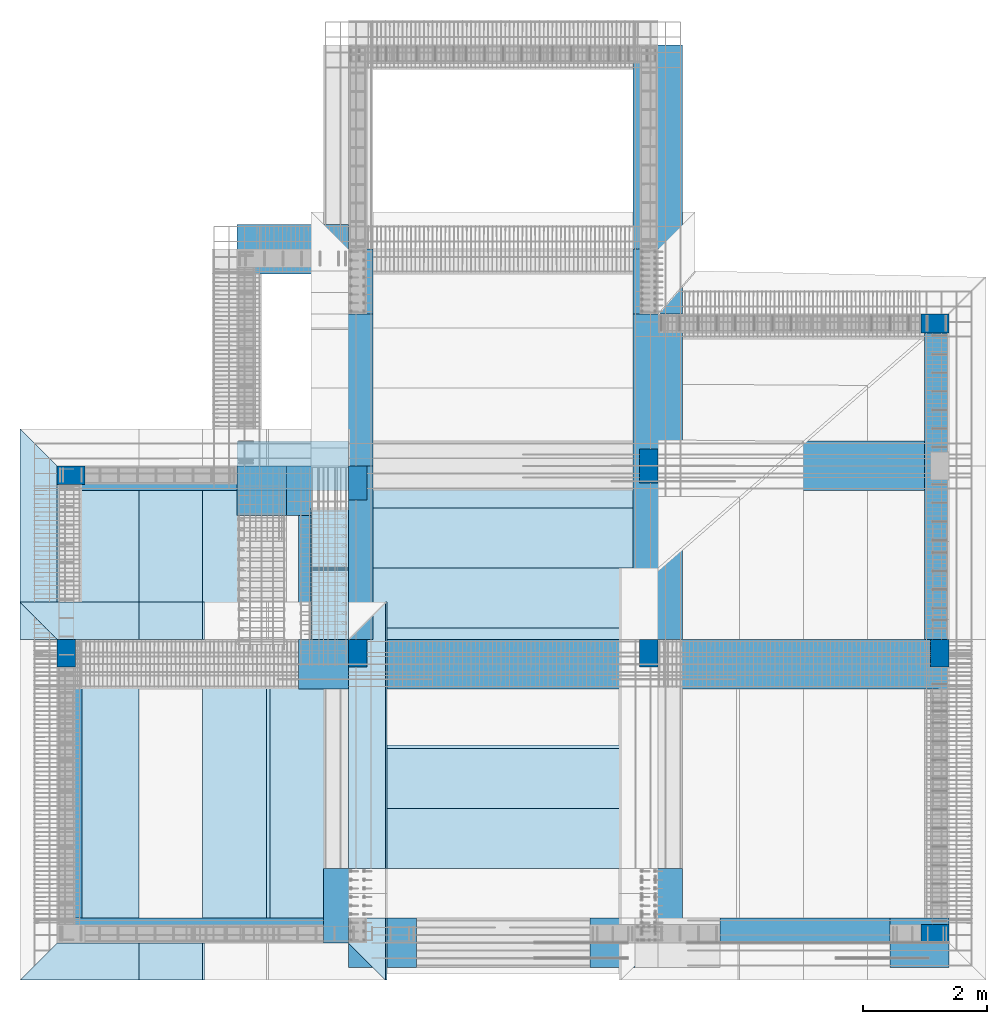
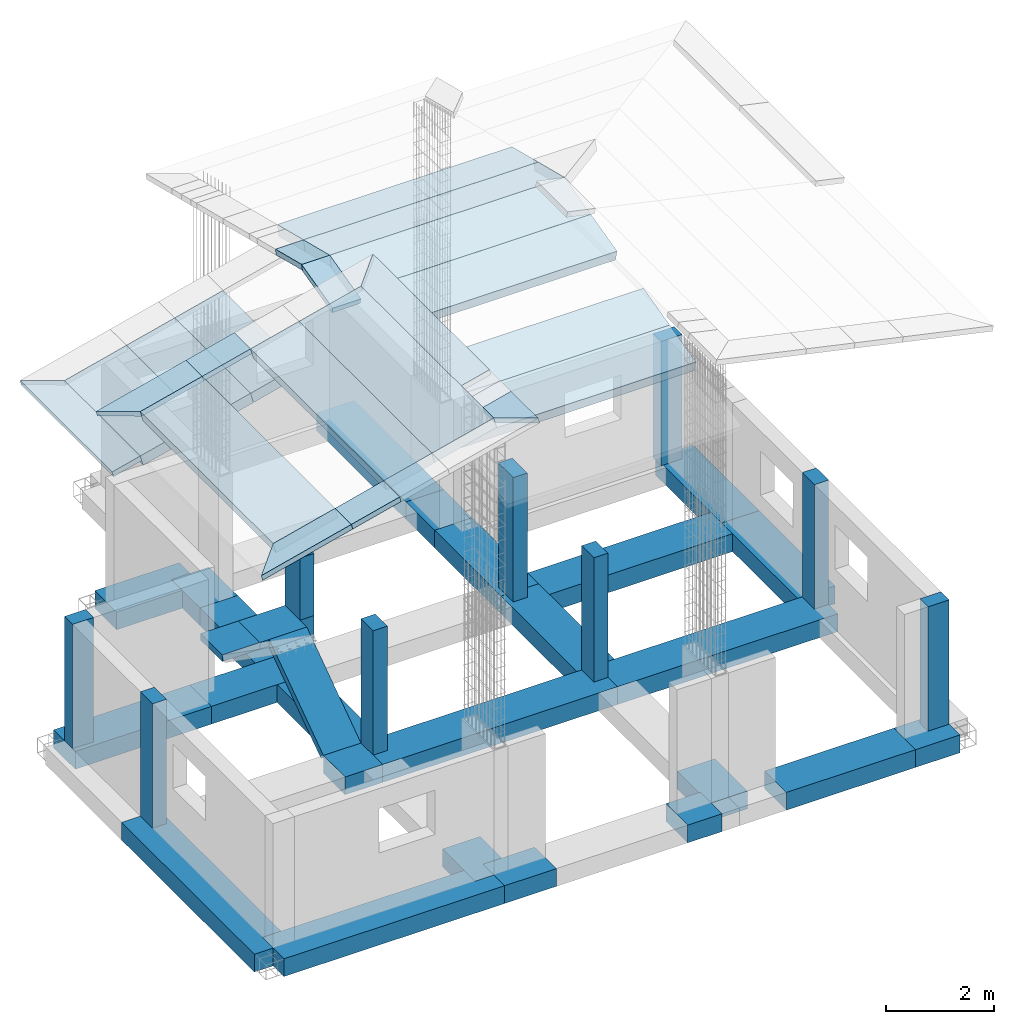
# One storey, part 1 of 15: 27 beams, 21 slabs, 10 columns.
"""IFC4 building model written with IfcOpenShell, lengths in metres."""

from ifc_helpers import new_model, si_unit, frame, frame_2d, origin_with_axes, origin_2d_with_axis, place, context, project, spatial, polyline, rectangle, outline, extrude, material, material_profile, profile_set, profile_usage, type_object, element, save


model = new_model("IFC4")

# Units and contexts
model_context = context("Model", 3, precision=1e-05, world=origin_with_axes())
ifc_project = project(units=[si_unit("LENGTHUNIT", "METRE"), si_unit("AREAUNIT", "SQUARE_METRE"), si_unit("VOLUMEUNIT", "CUBIC_METRE"), si_unit("MASSUNIT", "GRAM", prefix="KILO"), si_unit("TIMEUNIT", "SECOND"), si_unit("PLANEANGLEUNIT", "RADIAN"), si_unit("SOLIDANGLEUNIT", "STERADIAN"), si_unit("THERMODYNAMICTEMPERATUREUNIT", "DEGREE_CELSIUS")], contexts=[model_context])

# Site, building, storey
placement_1 = place(None, origin_with_axes())
site = spatial("IfcSite", under=ifc_project, at=placement_1, Name="Italia", CompositionType="ELEMENT")
building = spatial("IfcBuilding", under=site, at=placement_1, Name="Bifamiliare", CompositionType="ELEMENT")
storey = spatial("IfcBuildingStorey", under=building, at=placement_1, Name="Storey 0", CompositionType="ELEMENT", Elevation=0.0)

# Columns
ifc_material_1 = material(Name="Calcestruzzo", Category="Calcestruzzo")
ifc_material_profile = material_profile(ifc_material_1, rectangle(XDim=0.3, YDim=0.55, at=frame_2d((0.0, 0.0), x_axis=(0.0, 1.0))), Name="9 Pil 55x30")
ifc_profile_set = profile_set([ifc_material_profile])
column_type_1 = type_object("IfcColumnType", Name="9 Pil 55x30", PredefinedType="COLUMN", material=ifc_profile_set)
placement_2 = place(placement_1, origin_with_axes())
column_1_placement = place(placement_2, origin_with_axes())
element("IfcColumn", 1, at=column_1_placement, inside=storey, type_object=column_type_1, Name="8", context=model_context, shape_type="SweptSolid", body=[
    extrude(rectangle(XDim=0.3, YDim=0.55, at=frame_2d((0.0, 0.0), x_axis=(0.0, 1.0))), frame((5.95, 8.825, 0.0), z_axis=(0.0, 0.0, 1.0), x_axis=(0.0, 1.0, 0.0)), (0.0, 0.0, 1.0), 1.4),
])
ifc_profile_usage_1 = profile_usage(ifc_profile_set, cardinal=8)
column_type_2 = type_object("IfcColumnType", Name="9 Pil 55x30", PredefinedType="COLUMN", material=ifc_profile_usage_1)
column_2_placement = place(placement_2, origin_with_axes())
element("IfcColumn", 2, at=column_2_placement, inside=storey, type_object=column_type_2, Name="9", context=model_context, shape_type="SweptSolid", body=[
    extrude(rectangle(XDim=0.3, YDim=0.55, at=frame_2d((0.0, 0.0), x_axis=(0.0, 1.0))), frame((10.65, 9.1, 0.0), z_axis=(0.0, 0.0, 1.0), x_axis=(0.0, 1.0, 0.0)), (0.0, 0.0, 1.0), 2.8),
])
ifc_profile_usage_2 = profile_usage(ifc_profile_set, cardinal=9)
column_type_3 = type_object("IfcColumnType", Name="7 Pil 45x30", PredefinedType="COLUMN", material=ifc_profile_usage_2)
column_3_placement = place(placement_2, origin_with_axes())
element("IfcColumn", 3, at=column_3_placement, inside=storey, type_object=column_type_3, Name="5", context=model_context, shape_type="SweptSolid", body=[
    extrude(rectangle(XDim=0.3, YDim=0.45, at=frame_2d((0.0, 0.0), x_axis=(0.0, 1.0))), frame((10.65, 6.075, 0.0), z_axis=(0.0, 0.0, 1.0), x_axis=(0.0, 1.0, 0.0)), (0.0, 0.0, 1.0), 2.8),
])
ifc_profile_usage_3 = profile_usage(ifc_profile_set, cardinal=3)
column_type_4 = type_object("IfcColumnType", Name="7 Pil 45x30", PredefinedType="COLUMN", material=ifc_profile_usage_3)
column_4_placement = place(placement_2, origin_with_axes())
element("IfcColumn", 4, at=column_4_placement, inside=storey, type_object=column_type_4, Name="4", context=model_context, shape_type="SweptSolid", body=[
    extrude(rectangle(XDim=0.3, YDim=0.45, at=frame_2d((0.0, 0.0), x_axis=(0.0, 1.0))), frame((5.95, 6.075, 0.0), z_axis=(0.0, 0.0, 1.0), x_axis=(0.0, 1.0, 0.0)), (0.0, 0.0, 1.0), 2.8),
])
ifc_profile_usage_4 = profile_usage(ifc_profile_set, cardinal=9)
column_type_5 = type_object("IfcColumnType", Name="8 Pil 30x45", PredefinedType="COLUMN", material=ifc_profile_usage_4)
column_5_placement = place(placement_2, origin_with_axes())
element("IfcColumn", 5, at=column_5_placement, inside=storey, type_object=column_type_5, Name="11", context=model_context, shape_type="SweptSolid", body=[
    extrude(rectangle(XDim=0.3, YDim=0.45, at=origin_2d_with_axis()), frame((15.275, 11.4, 0.0), z_axis=(0.0, 0.0, 1.0), x_axis=(0.0, 1.0, 0.0)), (0.0, 0.0, 1.0), 2.8),
])
ifc_profile_usage_5 = profile_usage(ifc_profile_set, cardinal=9)
column_type_6 = type_object("IfcColumnType", Name="7 Pil 45x30", PredefinedType="COLUMN", material=ifc_profile_usage_5)
column_6_placement = place(placement_2, origin_with_axes())
element("IfcColumn", 6, at=column_6_placement, inside=storey, type_object=column_type_6, Name="6", context=model_context, shape_type="SweptSolid", body=[
    extrude(rectangle(XDim=0.3, YDim=0.45, at=frame_2d((0.0, 0.0), x_axis=(0.0, 1.0))), frame((15.35, 6.075, 0.0), z_axis=(0.0, 0.0, 1.0), x_axis=(0.0, 1.0, 0.0)), (0.0, 0.0, 1.0), 2.8),
])
ifc_profile_usage_6 = profile_usage(ifc_profile_set, cardinal=7)
column_type_7 = type_object("IfcColumnType", Name="8 Pil 30x45", PredefinedType="COLUMN", material=ifc_profile_usage_6)
column_7_placement = place(placement_2, origin_with_axes())
element("IfcColumn", 7, at=column_7_placement, inside=storey, type_object=column_type_7, Name="2", context=model_context, shape_type="SweptSolid", body=[
    extrude(rectangle(XDim=0.3, YDim=0.45, at=origin_2d_with_axis()), frame((15.275, 1.55, 0.0), z_axis=(0.0, 0.0, 1.0), x_axis=(0.0, 1.0, 0.0)), (0.0, 0.0, 1.0), 2.8),
])
ifc_profile_usage_7 = profile_usage(ifc_profile_set, cardinal=3)
column_type_8 = type_object("IfcColumnType", Name="8 Pil 30x45", PredefinedType="COLUMN", material=ifc_profile_usage_7)
column_8_placement = place(placement_2, origin_with_axes())
element("IfcColumn", 8, at=column_8_placement, inside=storey, type_object=column_type_8, Name="7", context=model_context, shape_type="SweptSolid", body=[
    extrude(rectangle(XDim=0.3, YDim=0.45, at=origin_2d_with_axis()), frame((1.325, 8.95, 0.0), z_axis=(0.0, 0.0, 1.0), x_axis=(0.0, 1.0, 0.0)), (0.0, 0.0, 1.0), 2.8),
])
ifc_profile_usage_8 = profile_usage(ifc_profile_set, cardinal=3)
column_type_9 = type_object("IfcColumnType", Name="7 Pil 45x30", PredefinedType="COLUMN", material=ifc_profile_usage_8)
column_9_placement = place(placement_2, origin_with_axes())
element("IfcColumn", 9, at=column_9_placement, inside=storey, type_object=column_type_9, Name="3", context=model_context, shape_type="SweptSolid", body=[
    extrude(rectangle(XDim=0.3, YDim=0.45, at=frame_2d((0.0, 0.0), x_axis=(0.0, 1.0))), frame((1.25, 6.075, 0.0), z_axis=(0.0, 0.0, 1.0), x_axis=(0.0, 1.0, 0.0)), (0.0, 0.0, 1.0), 2.8),
])
ifc_profile_usage_9 = profile_usage(ifc_profile_set, cardinal=3)
column_type_10 = type_object("IfcColumnType", Name="9 Pil 55x30", PredefinedType="COLUMN", material=ifc_profile_usage_9)
column_10_placement = place(placement_2, origin_with_axes())
element("IfcColumn", 10, at=column_10_placement, inside=storey, type_object=column_type_10, Name="8", context=model_context, shape_type="SweptSolid", body=[
    extrude(rectangle(XDim=0.3, YDim=0.55, at=frame_2d((0.0, 0.0), x_axis=(0.0, 1.0))), frame((5.95, 8.825, 1.4), z_axis=(0.0, 0.0, 1.0), x_axis=(0.0, 1.0, 0.0)), (0.0, 0.0, 1.0), 1.4),
])

# Beams
ifc_profile_usage_10 = profile_usage(ifc_profile_set, cardinal=1)
beam_type_1 = type_object("IfcBeamType", Name="5 Tr 80x40", PredefinedType="BEAM", material=ifc_profile_usage_10)
beam_1_placement = place(placement_2, origin_with_axes())
element("IfcBeam", 11, at=beam_1_placement, inside=storey, type_object=beam_type_1, Name="506", context=model_context, shape_type="SweptSolid", body=[
    extrude(rectangle(XDim=0.4, YDim=0.8, at=frame_2d((0.0, 0.0), x_axis=(0.0, 1.0))), frame((15.5, 5.9, -0.2), z_axis=(-1.0, 0.0, 0.0), x_axis=(0.0, -1.0, 0.0)), (0.0, 0.0, 1.0), 4.7),
])
ifc_profile_usage_11 = profile_usage(ifc_profile_set, cardinal=1)
beam_type_2 = type_object("IfcBeamType", Name="5 Tr 80x40", PredefinedType="BEAM", material=ifc_profile_usage_11)
beam_2_placement = place(placement_2, origin_with_axes())
element("IfcBeam", 12, at=beam_2_placement, inside=storey, type_object=beam_type_2, Name="506", context=model_context, shape_type="SweptSolid", body=[
    extrude(rectangle(XDim=0.4, YDim=0.8, at=frame_2d((0.0, 0.0), x_axis=(0.0, 1.0))), frame((10.8, 5.9, -0.2), z_axis=(-1.0, 0.0, 0.0), x_axis=(0.0, -1.0, 0.0)), (0.0, 0.0, 1.0), 5.0),
])
ifc_profile_usage_12 = profile_usage(ifc_profile_set, cardinal=2)
beam_type_3 = type_object("IfcBeamType", Name="5 Tr 80x40", PredefinedType="BEAM", material=ifc_profile_usage_12)
beam_3_placement = place(placement_2, origin_with_axes())
element("IfcBeam", 13, at=beam_3_placement, inside=storey, type_object=beam_type_3, Name="510", context=model_context, shape_type="SweptSolid", body=[
    extrude(rectangle(XDim=0.4, YDim=0.8, at=frame_2d((0.0, 0.0), x_axis=(0.0, 1.0))), frame((5.8, 9.1, -0.2), z_axis=(-1.0, 0.0, 0.0), x_axis=(0.0, -1.0, 0.0)), (0.0, 0.0, 1.0), 1.8),
])
ifc_profile_usage_13 = profile_usage(ifc_profile_set, cardinal=2)
beam_type_4 = type_object("IfcBeamType", Name="5 Tr 80x40", PredefinedType="BEAM", material=ifc_profile_usage_13)
beam_4_placement = place(placement_2, origin_with_axes())
element("IfcBeam", 14, at=beam_4_placement, inside=storey, type_object=beam_type_4, Name="523", context=model_context, shape_type="SweptSolid", body=[
    extrude(rectangle(XDim=0.4, YDim=0.8, at=frame_2d((0.0, 0.0), x_axis=(0.0, 1.0))), frame((10.8, 6.3, -0.2), z_axis=(0.0, 1.0, 0.0), x_axis=(-1.0, 0.0, 0.0)), (0.0, 0.0, 1.0), 2.8),
])
ifc_profile_usage_14 = profile_usage(ifc_profile_set, cardinal=2)
beam_type_5 = type_object("IfcBeamType", Name="5 Tr 80x40", PredefinedType="BEAM", material=ifc_profile_usage_14)
beam_5_placement = place(placement_2, origin_with_axes())
element("IfcBeam", 15, at=beam_5_placement, inside=storey, type_object=beam_type_5, Name="523", context=model_context, shape_type="SweptSolid", body=[
    extrude(rectangle(XDim=0.4, YDim=0.8, at=frame_2d((0.0, 0.0), x_axis=(0.0, 1.0))), frame((10.8, 9.1, -0.2), z_axis=(0.0, 1.0, 0.0), x_axis=(-1.0, 0.0, 0.0)), (0.0, 0.0, 1.0), 2.45),
])
ifc_profile_usage_15 = profile_usage(ifc_profile_set, cardinal=2)
beam_type_6 = type_object("IfcBeamType", Name="5 Tr 80x40", PredefinedType="BEAM", material=ifc_profile_usage_15)
beam_6_placement = place(placement_2, origin_with_axes())
element("IfcBeam", 16, at=beam_6_placement, inside=storey, type_object=beam_type_6, Name="522", context=model_context, shape_type="SweptSolid", body=[
    extrude(rectangle(XDim=0.4, YDim=0.8, at=frame_2d((0.0, 0.0), x_axis=(0.0, 1.0))), frame((5.8, 9.1, -0.2), z_axis=(0.0, -1.0, 0.0), x_axis=(1.0, 0.0, 0.0)), (0.0, 0.0, 1.0), 2.8),
])
ifc_profile_usage_16 = profile_usage(ifc_profile_set, cardinal=2)
beam_type_7 = type_object("IfcBeamType", Name="5 Tr 80x40", PredefinedType="BEAM", material=ifc_profile_usage_16)
beam_7_placement = place(placement_2, origin_with_axes())
element("IfcBeam", 17, at=beam_7_placement, inside=storey, type_object=beam_type_7, Name="522", context=model_context, shape_type="SweptSolid", body=[
    extrude(rectangle(XDim=0.4, YDim=0.8, at=frame_2d((0.0, 0.0), x_axis=(0.0, 1.0))), frame((5.8, 11.55, -0.2), z_axis=(0.0, -1.0, 0.0), x_axis=(1.0, 0.0, 0.0)), (0.0, 0.0, 1.0), 2.45),
])
ifc_profile_usage_17 = profile_usage(ifc_profile_set, cardinal=2)
beam_type_8 = type_object("IfcBeamType", Name="5 Tr 80x40", PredefinedType="BEAM", material=ifc_profile_usage_17)
beam_8_placement = place(placement_2, origin_with_axes())
element("IfcBeam", 18, at=beam_8_placement, inside=storey, type_object=beam_type_8, Name="501", context=model_context, shape_type="SweptSolid", body=[
    extrude(rectangle(XDim=0.4, YDim=0.8, at=frame_2d((0.0, 0.0), x_axis=(0.0, 1.0))), frame((11.8, 1.4, -0.2), z_axis=(1.0, 0.0, 0.0), x_axis=(0.0, 1.0, 0.0)), (0.0, 0.0, 1.0), 2.75),
])
ifc_profile_usage_18 = profile_usage(ifc_profile_set, cardinal=2)
beam_type_9 = type_object("IfcBeamType", Name="5 Tr 80x40", PredefinedType="BEAM", material=ifc_profile_usage_18)
beam_9_placement = place(placement_2, origin_with_axes())
element("IfcBeam", 19, at=beam_9_placement, inside=storey, type_object=beam_type_9, Name="510", context=model_context, shape_type="SweptSolid", body=[
    extrude(rectangle(XDim=0.4, YDim=0.8, at=frame_2d((0.0, 0.0), x_axis=(0.0, 1.0))), frame((15.5, 9.1, -0.2), z_axis=(-1.0, 0.0, 0.0), x_axis=(0.0, -1.0, 0.0)), (0.0, 0.0, 1.0), 4.7),
])
ifc_profile_usage_19 = profile_usage(ifc_profile_set, cardinal=2)
beam_type_10 = type_object("IfcBeamType", Name="5 Tr 80x40", PredefinedType="BEAM", material=ifc_profile_usage_19)
beam_10_placement = place(placement_2, origin_with_axes())
element("IfcBeam", 20, at=beam_10_placement, inside=storey, type_object=beam_type_10, Name="522", context=model_context, shape_type="SweptSolid", body=[
    extrude(rectangle(XDim=0.4, YDim=0.8, at=frame_2d((0.0, 0.0), x_axis=(0.0, 1.0))), frame((5.8, 12.6, -0.2), z_axis=(0.0, -1.0, 0.0), x_axis=(1.0, 0.0, 0.0)), (0.0, 0.0, 1.0), 1.05),
])
ifc_profile_usage_20 = profile_usage(ifc_profile_set, cardinal=2)
beam_type_11 = type_object("IfcBeamType", Name="5 Tr 80x40", PredefinedType="BEAM", material=ifc_profile_usage_20)
beam_11_placement = place(placement_2, origin_with_axes())
element("IfcBeam", 21, at=beam_11_placement, inside=storey, type_object=beam_type_11, Name="522", context=model_context, shape_type="SweptSolid", body=[
    extrude(rectangle(XDim=0.4, YDim=0.8, at=frame_2d((0.0, 0.0), x_axis=(0.0, 1.0))), frame((5.8, 2.6, -0.2), z_axis=(0.0, -1.0, 0.0), x_axis=(1.0, 0.0, 0.0)), (0.0, 0.0, 1.0), 1.2),
])
ifc_profile_usage_21 = profile_usage(ifc_profile_set, cardinal=2)
beam_type_12 = type_object("IfcBeamType", Name="5 Tr 80x40", PredefinedType="BEAM", material=ifc_profile_usage_21)
beam_12_placement = place(placement_2, origin_with_axes())
element("IfcBeam", 22, at=beam_12_placement, inside=storey, type_object=beam_type_12, Name="527", context=model_context, shape_type="SweptSolid", body=[
    extrude(rectangle(XDim=0.4, YDim=0.8, at=frame_2d((0.0, 0.0), x_axis=(0.0, 1.0))), frame((15.5, 9.1, -0.2), z_axis=(0.0, 1.0, 0.0), x_axis=(-1.0, 0.0, 0.0)), (0.0, 0.0, 1.0), 2.45),
])
ifc_profile_usage_22 = profile_usage(ifc_profile_set, cardinal=2)
beam_type_13 = type_object("IfcBeamType", Name="5 Tr 80x40", PredefinedType="BEAM", material=ifc_profile_usage_22)
beam_13_placement = place(placement_2, origin_with_axes())
element("IfcBeam", 23, at=beam_13_placement, inside=storey, type_object=beam_type_13, Name="527", context=model_context, shape_type="SweptSolid", body=[
    extrude(rectangle(XDim=0.4, YDim=0.8, at=frame_2d((0.0, 0.0), x_axis=(0.0, 1.0))), frame((15.5, 6.3, -0.2), z_axis=(0.0, 1.0, 0.0), x_axis=(-1.0, 0.0, 0.0)), (0.0, 0.0, 1.0), 2.8),
])
ifc_profile_usage_23 = profile_usage(ifc_profile_set, cardinal=2)
beam_type_14 = type_object("IfcBeamType", Name="5 Tr 80x40", PredefinedType="BEAM", material=ifc_profile_usage_23)
beam_14_placement = place(placement_2, origin_with_axes())
element("IfcBeam", 24, at=beam_14_placement, inside=storey, type_object=beam_type_14, Name="501", context=model_context, shape_type="SweptSolid", body=[
    extrude(rectangle(XDim=0.4, YDim=0.8, at=frame_2d((0.0, 0.0), x_axis=(0.0, 1.0))), frame((14.55, 1.4, -0.2), z_axis=(1.0, 0.0, 0.0), x_axis=(0.0, 1.0, 0.0)), (0.0, 0.0, 1.0), 0.95),
])
ifc_profile_usage_24 = profile_usage(ifc_profile_set, cardinal=2)
beam_type_15 = type_object("IfcBeamType", Name="5 Tr 80x40", PredefinedType="BEAM", material=ifc_profile_usage_24)
beam_15_placement = place(placement_2, origin_with_axes())
element("IfcBeam", 25, at=beam_15_placement, inside=storey, type_object=beam_type_15, Name="523", context=model_context, shape_type="SweptSolid", body=[
    extrude(rectangle(XDim=0.4, YDim=0.8, at=frame_2d((0.0, 0.0), x_axis=(0.0, 1.0))), frame((10.8, 12.6, -0.2), z_axis=(0.0, 1.0, 0.0), x_axis=(-1.0, 0.0, 0.0)), (0.0, 0.0, 1.0), 3.3),
])
ifc_profile_usage_25 = profile_usage(ifc_profile_set, cardinal=2)
beam_type_16 = type_object("IfcBeamType", Name="5 Tr 80x40", PredefinedType="BEAM", material=ifc_profile_usage_25)
beam_16_placement = place(placement_2, origin_with_axes())
element("IfcBeam", 26, at=beam_16_placement, inside=storey, type_object=beam_type_16, Name="523", context=model_context, shape_type="SweptSolid", body=[
    extrude(rectangle(XDim=0.4, YDim=0.8, at=frame_2d((0.0, 0.0), x_axis=(0.0, 1.0))), frame((10.8, 11.55, -0.2), z_axis=(0.0, 1.0, 0.0), x_axis=(-1.0, 0.0, 0.0)), (0.0, 0.0, 1.0), 1.05),
])
ifc_profile_usage_26 = profile_usage(ifc_profile_set, cardinal=2)
beam_type_17 = type_object("IfcBeamType", Name="5 Tr 80x40", PredefinedType="BEAM", material=ifc_profile_usage_26)
beam_17_placement = place(placement_2, origin_with_axes())
element("IfcBeam", 27, at=beam_17_placement, inside=storey, type_object=beam_type_17, Name="523", context=model_context, shape_type="SweptSolid", body=[
    extrude(rectangle(XDim=0.4, YDim=0.8, at=frame_2d((0.0, 0.0), x_axis=(0.0, 1.0))), frame((10.8, 1.4, -0.2), z_axis=(0.0, 1.0, 0.0), x_axis=(-1.0, 0.0, 0.0)), (0.0, 0.0, 1.0), 1.2),
])
ifc_profile_usage_27 = profile_usage(ifc_profile_set, cardinal=2)
beam_type_18 = type_object("IfcBeamType", Name="5 Tr 80x40", PredefinedType="BEAM", material=ifc_profile_usage_27)
beam_18_placement = place(placement_2, origin_with_axes())
element("IfcBeam", 28, at=beam_18_placement, inside=storey, type_object=beam_type_18, Name="501", context=model_context, shape_type="SweptSolid", body=[
    extrude(rectangle(XDim=0.4, YDim=0.8, at=frame_2d((0.0, 0.0), x_axis=(0.0, 1.0))), frame((9.7, 1.4, -0.2), z_axis=(1.0, 0.0, 0.0), x_axis=(0.0, 1.0, 0.0)), (0.0, 0.0, 1.0), 0.733334),
])
ifc_profile_usage_28 = profile_usage(ifc_profile_set, cardinal=2)
beam_type_19 = type_object("IfcBeamType", Name="5 Tr 80x40", PredefinedType="BEAM", material=ifc_profile_usage_28)
beam_19_placement = place(placement_2, origin_with_axes())
element("IfcBeam", 29, at=beam_19_placement, inside=storey, type_object=beam_type_19, Name="515", context=model_context, shape_type="SweptSolid", body=[
    extrude(rectangle(XDim=0.4, YDim=0.8, at=frame_2d((0.0, 0.0), x_axis=(0.0, 1.0))), frame((5.8, 12.6, -0.2), z_axis=(-1.0, 0.0, 0.0), x_axis=(0.0, -1.0, 0.0)), (0.0, 0.0, 1.0), 1.8),
])
ifc_profile_usage_29 = profile_usage(ifc_profile_set, cardinal=2)
beam_type_20 = type_object("IfcBeamType", Name="5 Tr 80x40", PredefinedType="BEAM", material=ifc_profile_usage_29)
beam_20_placement = place(placement_2, origin_with_axes())
element("IfcBeam", 30, at=beam_20_placement, inside=storey, type_object=beam_type_20, Name="501", context=model_context, shape_type="SweptSolid", body=[
    extrude(rectangle(XDim=0.4, YDim=0.8, at=frame_2d((0.0, 0.0), x_axis=(0.0, 1.0))), frame((5.8, 1.4, -0.2), z_axis=(1.0, 0.0, 0.0), x_axis=(0.0, 1.0, 0.0)), (0.0, 0.0, 1.0), 1.1),
])
ifc_profile_usage_30 = profile_usage(ifc_profile_set, cardinal=2)
beam_type_21 = type_object("IfcBeamType", Name="5 Tr 80x40", PredefinedType="BEAM", material=ifc_profile_usage_30)
beam_21_placement = place(placement_2, origin_with_axes())
element("IfcBeam", 31, at=beam_21_placement, inside=storey, type_object=beam_type_21, Name="510", context=model_context, shape_type="SweptSolid", body=[
    extrude(rectangle(XDim=0.4, YDim=0.8, at=frame_2d((0.0, 0.0), x_axis=(0.0, 1.0))), frame((4.0, 9.1, -0.2), z_axis=(-1.0, 0.0, 0.0), x_axis=(0.0, -1.0, 0.0)), (0.0, 0.0, 1.0), 2.9),
])
ifc_profile_usage_31 = profile_usage(ifc_profile_set, cardinal=2)
beam_type_22 = type_object("IfcBeamType", Name="5 Tr 80x40", PredefinedType="BEAM", material=ifc_profile_usage_31)
beam_22_placement = place(placement_2, origin_with_axes())
element("IfcBeam", 32, at=beam_22_placement, inside=storey, type_object=beam_type_22, Name="517", context=model_context, shape_type="SweptSolid", body=[
    extrude(rectangle(XDim=0.4, YDim=0.8, at=frame_2d((0.0, 0.0), x_axis=(0.0, 1.0))), frame((1.1, 6.3, -0.2), z_axis=(0.0, -1.0, 0.0), x_axis=(1.0, 0.0, 0.0)), (0.0, 0.0, 1.0), 4.9),
])
ifc_profile_usage_32 = profile_usage(ifc_profile_set, cardinal=2)
beam_type_23 = type_object("IfcBeamType", Name="5 Tr 80x40", PredefinedType="BEAM", material=ifc_profile_usage_32)
beam_23_placement = place(placement_2, origin_with_axes())
element("IfcBeam", 33, at=beam_23_placement, inside=storey, type_object=beam_type_23, Name="501", context=model_context, shape_type="SweptSolid", body=[
    extrude(rectangle(XDim=0.4, YDim=0.8, at=frame_2d((0.0, 0.0), x_axis=(0.0, 1.0))), frame((1.1, 1.4, -0.2), z_axis=(1.0, 0.0, 0.0), x_axis=(0.0, 1.0, 0.0)), (0.0, 0.0, 1.0), 4.7),
])
ifc_profile_usage_33 = profile_usage(ifc_profile_set, cardinal=1)
beam_type_24 = type_object("IfcBeamType", Name="5 Tr 80x40", PredefinedType="BEAM", material=ifc_profile_usage_33)
beam_24_placement = place(placement_2, origin_with_axes())
element("IfcBeam", 34, at=beam_24_placement, inside=storey, type_object=beam_type_24, Name="506", context=model_context, shape_type="SweptSolid", body=[
    extrude(rectangle(XDim=0.4, YDim=0.8, at=frame_2d((0.0, 0.0), x_axis=(0.0, 1.0))), frame((5.8, 5.9, -0.2), z_axis=(-1.0, 0.0, 0.0), x_axis=(0.0, -1.0, 0.0)), (0.0, 0.0, 1.0), 0.8),
])
ifc_profile_usage_34 = profile_usage(ifc_profile_set, cardinal=1)
beam_type_25 = type_object("IfcBeamType", Name="10 Scala", PredefinedType="BEAM", material=ifc_profile_usage_34)
beam_25_placement = place(placement_2, origin_with_axes())
element("IfcBeam", 35, at=beam_25_placement, inside=storey, type_object=beam_type_25, Name="601", context=model_context, shape_type="SweptSolid", body=[
    extrude(rectangle(XDim=0.15, YDim=0.8, at=frame_2d((0.0, 0.0), x_axis=(0.0, 1.0))), frame((5.4, 6.34301, -0.0614424), z_axis=(0.0, 0.819231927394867, 0.573462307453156), x_axis=(-1.0, 0.0, 0.0)), (0.0, 0.0, 1.0), 2.44131),
])
ifc_profile_usage_35 = profile_usage(ifc_profile_set, cardinal=1)
beam_type_26 = type_object("IfcBeamType", Name="11 Pianerottolo", PredefinedType="BEAM", material=ifc_profile_usage_35)
beam_26_placement = place(placement_2, origin_with_axes())
element("IfcBeam", 36, at=beam_26_placement, inside=storey, type_object=beam_type_26, Name="601", context=model_context, shape_type="SweptSolid", body=[
    extrude(rectangle(XDim=0.15, YDim=1.0, at=frame_2d((0.0, 0.0), x_axis=(0.0, 1.0))), frame((5.3, 8.3, 1.325), z_axis=(0.0, 1.0, 0.0), x_axis=(-1.0, 0.0, 0.0)), (0.0, 0.0, 1.0), 0.8),
])
ifc_profile_usage_36 = profile_usage(ifc_profile_set, cardinal=1)
beam_type_27 = type_object("IfcBeamType", Name="10 Scala", PredefinedType="BEAM", material=ifc_profile_usage_36)
beam_27_placement = place(placement_2, origin_with_axes())
element("IfcBeam", 37, at=beam_27_placement, inside=storey, type_object=beam_type_27, Name="602", context=model_context, shape_type="SweptSolid", body=[
    extrude(rectangle(XDim=0.15, YDim=0.8, at=frame_2d((0.0, 0.0), x_axis=(0.0, 1.0))), frame((4.4, 9.1, 1.325), z_axis=(0.0, -1.0, 0.0), x_axis=(1.0, 0.0, 0.0)), (0.0, 0.0, 1.0), 0.8),
])

# Slabs
ifc_material_2 = material(Name="Concrete", Category="Concrete")
slab_type_1 = type_object("IfcSlabType", Name="2 Solaio copertura", PredefinedType="FLOOR", material=ifc_material_2)
slab_1_placement = place(placement_2, origin_with_axes())
element("IfcSlab", 38, at=slab_1_placement, inside=storey, type_object=slab_type_1, Name="301", context=model_context, shape_type="SweptSolid", body=[
    extrude(outline(polyline([(0.0, 0.0), (-5.0, 0.0), (-5.0, 0.999968), (0.0, 0.999968), (0.0, 0.0)])), frame((10.8, 8.42, 10.047), z_axis=(0.0, -0.242980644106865, -0.970031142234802), x_axis=(1.0, 0.0, 0.0)), (0.0, 0.0, 1.0), 0.24),
])
ifc_material_3 = material(Name="Concrete", Category="Concrete")
slab_type_2 = type_object("IfcSlabType", Name="2 Solaio copertura", PredefinedType="FLOOR", material=ifc_material_3)
slab_2_placement = place(placement_2, origin_with_axes())
element("IfcSlab", 39, at=slab_2_placement, inside=storey, type_object=slab_type_2, Name="302", context=model_context, shape_type="SweptSolid", body=[
    extrude(outline(polyline([(0.0, 0.0), (-5.0, 0.0), (-5.0, 0.298959), (-5.0, 0.999968), (0.0, 0.999968), (0.0, 0.804098), (0.0, 0.298959), (0.0, 0.0)])), frame((10.8, 9.39, 9.80406), z_axis=(0.0, -0.242980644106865, -0.970031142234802), x_axis=(1.0, 0.0, 0.0)), (0.0, 0.0, 1.0), 0.24),
])
ifc_material_4 = material(Name="Concrete", Category="Concrete")
slab_type_3 = type_object("IfcSlabType", Name="3 Aggetto di gronda", PredefinedType="FLOOR", material=ifc_material_4)
slab_3_placement = place(placement_2, origin_with_axes())
element("IfcSlab", 40, at=slab_3_placement, inside=storey, type_object=slab_type_3, Name="329", context=model_context, shape_type="SweptSolid", body=[
    extrude(outline(polyline([(0.0, 0.0), (0.0, 0.999968), (-0.6, 0.999968), (-0.6, 0.0), (0.0, 0.0)])), frame((5.8, 8.42, 10.047), z_axis=(0.0, -0.242980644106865, -0.970031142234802), x_axis=(1.0, 0.0, 0.0)), (0.0, 0.0, 1.0), 0.12),
])
ifc_material_5 = material(Name="Concrete", Category="Concrete")
slab_type_4 = type_object("IfcSlabType", Name="3 Aggetto di gronda", PredefinedType="FLOOR", material=ifc_material_5)
slab_4_placement = place(placement_2, origin_with_axes())
element("IfcSlab", 41, at=slab_4_placement, inside=storey, type_object=slab_type_4, Name="334", context=model_context, shape_type="SweptSolid", body=[
    extrude(outline(polyline([(0.0, 0.0), (-2.8, 0.0), (-2.8, -0.618621), (0.6, -0.618621), (0.0, 0.0)])), frame((1.1, 9.1, 8.11), z_axis=(0.243505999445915, 0.0, -0.969899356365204), x_axis=(0.0, 1.0, 0.0)), (0.0, 0.0, 1.0), 0.12),
])
ifc_material_6 = material(Name="Concrete", Category="Concrete")
slab_type_5 = type_object("IfcSlabType", Name="3 Aggetto di gronda", PredefinedType="FLOOR", material=ifc_material_6)
slab_5_placement = place(placement_2, origin_with_axes())
element("IfcSlab", 42, at=slab_5_placement, inside=storey, type_object=slab_type_5, Name="347", context=model_context, shape_type="SweptSolid", body=[
    extrude(outline(polyline([(0.0, 0.0), (-0.00662661, -0.99992), (-0.00785637, -1.18547), (0.59213, -1.18995), (0.599986, -0.00397491), (0.0, 0.0)])), frame((5.8, 7.45, 10.29), z_axis=(0.001664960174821, 0.243700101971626, -0.969849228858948), x_axis=(-0.999976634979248, 0.006831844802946, 0.0)), (0.0, 0.0, 1.0), 0.12),
])
ifc_material_7 = material(Name="Concrete", Category="Concrete")
slab_type_6 = type_object("IfcSlabType", Name="3 Aggetto di gronda", PredefinedType="FLOOR", material=ifc_material_7)
slab_6_placement = place(placement_2, origin_with_axes())
element("IfcSlab", 43, at=slab_6_placement, inside=storey, type_object=slab_type_6, Name="350", context=model_context, shape_type="SweptSolid", body=[
    extrude(outline(polyline([(0.0, 0.0), (0.0, -1.06197), (0.6, -1.06197), (0.6, 0.0), (0.0, 0.0)])), frame((3.45, 6.3, 9.7), z_axis=(0.243505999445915, 0.0, -0.969899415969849), x_axis=(0.0, 1.0, 0.0)), (0.0, 0.0, 1.0), 0.12),
])
ifc_material_8 = material(Name="Concrete", Category="Concrete")
slab_type_7 = type_object("IfcSlabType", Name="3 Aggetto di gronda", PredefinedType="FLOOR", material=ifc_material_8)
slab_7_placement = place(placement_2, origin_with_axes())
element("IfcSlab", 44, at=slab_7_placement, inside=storey, type_object=slab_type_7, Name="351", context=model_context, shape_type="SweptSolid", body=[
    extrude(outline(polyline([(0.0, 0.0), (0.0, -1.36097), (0.6, -1.97959), (0.6, 0.0), (0.0, 0.0)])), frame((2.42, 6.3, 9.4414), z_axis=(0.243505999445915, 0.0, -0.969899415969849), x_axis=(0.0, 1.0, 0.0)), (0.0, 0.0, 1.0), 0.12),
])
ifc_material_9 = material(Name="Concrete", Category="Concrete")
slab_type_8 = type_object("IfcSlabType", Name="3 Aggetto di gronda", PredefinedType="FLOOR", material=ifc_material_9)
slab_8_placement = place(placement_2, origin_with_axes())
element("IfcSlab", 45, at=slab_8_placement, inside=storey, type_object=slab_type_8, Name="353", context=model_context, shape_type="SweptSolid", body=[
    extrude(outline(polyline([(0.0, 0.0), (0.0, 1.36097), (-0.6, 1.36097), (-0.6, -0.618621), (0.0, 0.0)])), frame((1.1, 1.4, 9.11), z_axis=(0.243505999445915, 0.0, -0.969899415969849), x_axis=(0.0, 1.0, 0.0)), (0.0, 0.0, 1.0), 0.12),
])
ifc_material_10 = material(Name="Concrete", Category="Concrete")
slab_type_9 = type_object("IfcSlabType", Name="3 Aggetto di gronda", PredefinedType="FLOOR", material=ifc_material_10)
slab_9_placement = place(placement_2, origin_with_axes())
element("IfcSlab", 46, at=slab_9_placement, inside=storey, type_object=slab_type_9, Name="354", context=model_context, shape_type="SweptSolid", body=[
    extrude(outline(polyline([(0.0, 0.0), (0.0, 1.06197), (-0.6, 1.06197), (-0.6, 0.0), (0.0, 0.0)])), frame((2.42, 1.4, 9.4414), z_axis=(0.243505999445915, 0.0, -0.969899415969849), x_axis=(0.0, 1.0, 0.0)), (0.0, 0.0, 1.0), 0.12),
])
ifc_material_11 = material(Name="Concrete", Category="Concrete")
slab_type_10 = type_object("IfcSlabType", Name="3 Aggetto di gronda", PredefinedType="FLOOR", material=ifc_material_11)
slab_10_placement = place(placement_2, origin_with_axes())
element("IfcSlab", 47, at=slab_10_placement, inside=storey, type_object=slab_type_10, Name="357", context=model_context, shape_type="SweptSolid", body=[
    extrude(outline(polyline([(0.0, 0.0), (0.4, 0.0), (0.4, 0.618621), (-0.6, 0.618621), (0.0, 0.0)])), frame((5.8, 1.4, 10.29), z_axis=(0.243507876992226, 0.0, -0.96989893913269), x_axis=(0.0, 1.0, 0.0)), (0.0, 0.0, 1.0), 0.12),
])
ifc_material_12 = material(Name="Concrete", Category="Concrete")
slab_type_11 = type_object("IfcSlabType", Name="3 Aggetto di gronda", PredefinedType="FLOOR", material=ifc_material_12)
slab_11_placement = place(placement_2, origin_with_axes())
element("IfcSlab", 48, at=slab_11_placement, inside=storey, type_object=slab_type_11, Name="360", context=model_context, shape_type="SweptSolid", body=[
    extrude(outline(polyline([(0.0, 0.0), (3.7, 0.0), (4.3, 0.618621), (0.0, 0.618621), (0.0, 0.0)])), frame((5.8, 2.6, 10.29), z_axis=(0.243507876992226, 0.0, -0.96989893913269), x_axis=(0.0, 1.0, 0.0)), (0.0, 0.0, 1.0), 0.12),
])
ifc_material_13 = material(Name="Concrete", Category="Concrete")
slab_type_12 = type_object("IfcSlabType", Name="2 Solaio copertura", PredefinedType="FLOOR", material=ifc_material_13)
slab_12_placement = place(placement_2, origin_with_axes())
element("IfcSlab", 49, at=slab_12_placement, inside=storey, type_object=slab_type_12, Name="361", context=model_context, shape_type="SweptSolid", body=[
    extrude(outline(polyline([(0.0, 0.0), (-5.0, 0.0), (-5.0, 0.999944), (0.0, 0.999944), (0.0, 0.0)])), frame((5.8, 2.6, 9.07565), z_axis=(0.0, 0.24288435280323, -0.970055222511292), x_axis=(-1.0, 0.0, 0.0)), (0.0, 0.0, 1.0), 0.24),
])
ifc_material_14 = material(Name="Concrete", Category="Concrete")
slab_type_13 = type_object("IfcSlabType", Name="2 Solaio copertura", PredefinedType="FLOOR", material=ifc_material_14)
slab_13_placement = place(placement_2, origin_with_axes())
element("IfcSlab", 50, at=slab_13_placement, inside=storey, type_object=slab_type_13, Name="362", context=model_context, shape_type="SweptSolid", body=[
    extrude(outline(polyline([(0.0, 0.0), (-5.0, 0.0), (-5.0, 0.999943), (0.0, 0.999943), (0.0, 0.0)])), frame((5.8, 3.57, 9.31852), z_axis=(0.0, 0.24288435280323, -0.970055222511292), x_axis=(-1.0, 0.0, 0.0)), (0.0, 0.0, 1.0), 0.24),
])
ifc_material_15 = material(Name="Concrete", Category="Concrete")
slab_type_14 = type_object("IfcSlabType", Name="2 Solaio copertura", PredefinedType="FLOOR", material=ifc_material_15)
slab_14_placement = place(placement_2, origin_with_axes())
element("IfcSlab", 51, at=slab_14_placement, inside=storey, type_object=slab_type_14, Name="364", context=model_context, shape_type="SweptSolid", body=[
    extrude(outline(polyline([(0.0, 0.0), (-5.0, -0.00400734), (-5.00065, 0.809878), (-5.0008, 0.995935), (-0.000801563, 0.999943), (-0.00065279, 0.814386), (0.0, 0.0)])), frame((5.8, 5.51, 9.80426), z_axis=(-0.000200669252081, 0.242885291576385, -0.970054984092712), x_axis=(-0.999999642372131, -0.000826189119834, 0.0)), (0.0, 0.0, 1.0), 0.24),
])
ifc_material_16 = material(Name="Concrete", Category="Concrete")
slab_type_15 = type_object("IfcSlabType", Name="2 Solaio copertura", PredefinedType="FLOOR", material=ifc_material_16)
slab_15_placement = place(placement_2, origin_with_axes())
element("IfcSlab", 52, at=slab_15_placement, inside=storey, type_object=slab_type_15, Name="365", context=model_context, shape_type="SweptSolid", body=[
    extrude(outline(polyline([(0.0, 0.0), (-5.0, 0.0), (-5.0, 0.999943), (0.0, 0.999943), (0.0, 0.0)])), frame((5.8, 6.48, 10.0471), z_axis=(0.0, 0.242883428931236, -0.970055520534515), x_axis=(-1.0, 0.0, 0.0)), (0.0, 0.0, 1.0), 0.24),
])
ifc_material_17 = material(Name="Concrete", Category="Concrete")
slab_type_16 = type_object("IfcSlabType", Name="2 Solaio copertura", PredefinedType="FLOOR", material=ifc_material_17)
slab_16_placement = place(placement_2, origin_with_axes())
element("IfcSlab", 53, at=slab_16_placement, inside=storey, type_object=slab_type_16, Name="366", context=model_context, shape_type="SweptSolid", body=[
    extrude(outline(polyline([(0.0, 0.0), (-4.9, 0.0), (-4.9, 1.36097), (0.0, 1.36097), (0.0, 0.0)])), frame((1.1, 6.3, 9.11), z_axis=(0.24350693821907, 0.0, -0.96989917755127), x_axis=(0.0, 1.0, 0.0)), (0.0, 0.0, 1.0), 0.24),
])
ifc_material_18 = material(Name="Concrete", Category="Concrete")
slab_type_17 = type_object("IfcSlabType", Name="2 Solaio copertura", PredefinedType="FLOOR", material=ifc_material_18)
slab_17_placement = place(placement_2, origin_with_axes())
element("IfcSlab", 54, at=slab_17_placement, inside=storey, type_object=slab_type_17, Name="368", context=model_context, shape_type="SweptSolid", body=[
    extrude(outline(polyline([(0.0, 0.0), (-4.9, 0.0), (-4.9, -1.06197), (0.0, -1.06197), (0.0, 0.0)])), frame((4.48, 6.3, 9.9586), z_axis=(0.24350693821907, 0.0, -0.96989917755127), x_axis=(0.0, 1.0, 0.0)), (0.0, 0.0, 1.0), 0.24),
])
ifc_material_19 = material(Name="Concrete", Category="Concrete")
slab_type_18 = type_object("IfcSlabType", Name="2 Solaio copertura", PredefinedType="FLOOR", material=ifc_material_19)
slab_18_placement = place(placement_2, origin_with_axes())
element("IfcSlab", 55, at=slab_18_placement, inside=storey, type_object=slab_type_18, Name="369", context=model_context, shape_type="SweptSolid", body=[
    extrude(outline(polyline([(0.0, 0.0), (-3.7, 0.0), (-4.1, 0.0), (-4.5, 0.0), (-4.9, 0.0), (-4.9, -1.36097), (0.0, -1.36097), (0.0, 0.0)])), frame((5.8, 6.3, 10.29), z_axis=(0.24350693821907, 0.0, -0.96989917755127), x_axis=(0.0, 1.0, 0.0)), (0.0, 0.0, 1.0), 0.24),
])
ifc_material_20 = material(Name="Concrete", Category="Concrete")
slab_type_19 = type_object("IfcSlabType", Name="2 Solaio copertura", PredefinedType="FLOOR", material=ifc_material_20)
slab_19_placement = place(placement_2, origin_with_axes())
element("IfcSlab", 56, at=slab_19_placement, inside=storey, type_object=slab_type_19, Name="371", context=model_context, shape_type="SweptSolid", body=[
    extrude(outline(polyline([(0.0, 0.0), (-2.8, 0.0), (-2.8, -1.06197), (0.0, -1.06197), (0.0, 0.0)])), frame((4.48, 9.1, 8.9586), z_axis=(0.24350693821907, 0.0, -0.96989917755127), x_axis=(0.0, 1.0, 0.0)), (0.0, 0.0, 1.0), 0.24),
])
ifc_material_21 = material(Name="Concrete", Category="Concrete")
slab_type_20 = type_object("IfcSlabType", Name="2 Solaio copertura", PredefinedType="FLOOR", material=ifc_material_21)
slab_20_placement = place(placement_2, origin_with_axes())
element("IfcSlab", 57, at=slab_20_placement, inside=storey, type_object=slab_type_20, Name="372", context=model_context, shape_type="SweptSolid", body=[
    extrude(outline(polyline([(0.0, 0.0), (-2.8, 0.0), (-2.8, -1.06197), (0.0, -1.06197), (0.0, 0.0)])), frame((3.45, 9.1, 8.7), z_axis=(0.24350693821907, 0.0, -0.96989917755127), x_axis=(0.0, 1.0, 0.0)), (0.0, 0.0, 1.0), 0.24),
])
ifc_material_22 = material(Name="Concrete", Category="Concrete")
slab_type_21 = type_object("IfcSlabType", Name="2 Solaio copertura", PredefinedType="FLOOR", material=ifc_material_22)
slab_21_placement = place(placement_2, origin_with_axes())
element("IfcSlab", 58, at=slab_21_placement, inside=storey, type_object=slab_type_21, Name="373", context=model_context, shape_type="SweptSolid", body=[
    extrude(outline(polyline([(0.0, 0.0), (-2.8, 0.0), (-2.8, 1.36097), (0.0, 1.36097), (0.0, 0.0)])), frame((1.1, 9.1, 8.11), z_axis=(0.24350693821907, 0.0, -0.96989917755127), x_axis=(0.0, 1.0, 0.0)), (0.0, 0.0, 1.0), 0.24),
])

save(model, "model.ifc")
